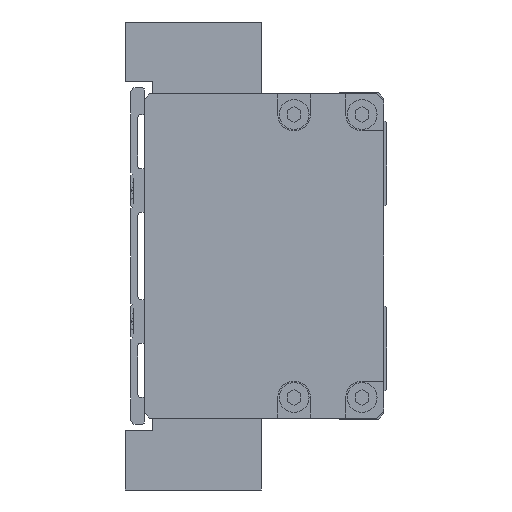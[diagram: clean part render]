
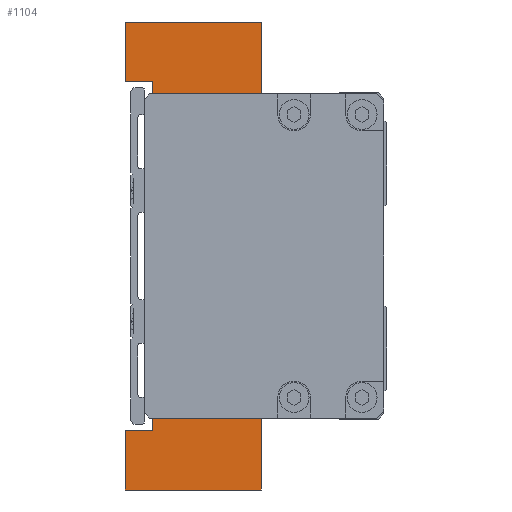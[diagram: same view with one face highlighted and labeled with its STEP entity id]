
A CAD part, left-side view. The second image highlights one B-rep face of the part: STEP entity #1104.
In plain terms, the highlighted planar face has unit normal (-1, 0, 0).
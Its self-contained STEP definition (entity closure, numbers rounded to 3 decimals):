
#369 = DIRECTION ( 'NONE',  ( 0., 1., 0. ) ) ;
#450 = LINE ( 'NONE', #4856, #14158 ) ;
#506 = CARTESIAN_POINT ( 'NONE',  ( -77., 25., 32. ) ) ;
#576 = FACE_OUTER_BOUND ( 'NONE', #13314, .T. ) ;
#730 = LINE ( 'NONE', #8029, #16674 ) ;
#1045 = EDGE_CURVE ( 'NONE', #18349, #2283, #13980, .T. ) ;
#1104 = ADVANCED_FACE ( 'NONE', ( #576 ), #7253, .F. ) ;
#1329 = VECTOR ( 'NONE', #4934, 1000. ) ;
#1408 = EDGE_CURVE ( 'NONE', #21489, #16535, #5716, .T. ) ;
#1482 = CARTESIAN_POINT ( 'NONE',  ( -77., 10., 21. ) ) ;
#2006 = VECTOR ( 'NONE', #18661, 1000. ) ;
#2052 = DIRECTION ( 'NONE',  ( 0., 0., 1. ) ) ;
#2283 = VERTEX_POINT ( 'NONE', #16072 ) ;
#2664 = VERTEX_POINT ( 'NONE', #22894 ) ;
#2738 = EDGE_CURVE ( 'NONE', #17824, #18231, #24630, .T. ) ;
#2873 = LINE ( 'NONE', #13018, #11513 ) ;
#3145 = ORIENTED_EDGE ( 'NONE', *, *, #1408, .F. ) ;
#3332 = DIRECTION ( 'NONE',  ( 0., -1., 0. ) ) ;
#3763 = VERTEX_POINT ( 'NONE', #18085 ) ;
#3834 = ORIENTED_EDGE ( 'NONE', *, *, #1045, .F. ) ;
#3844 = VECTOR ( 'NONE', #7135, 1000. ) ;
#4324 = EDGE_CURVE ( 'NONE', #9682, #3763, #21065, .T. ) ;
#4696 = ORIENTED_EDGE ( 'NONE', *, *, #6400, .F. ) ;
#4768 = CARTESIAN_POINT ( 'NONE',  ( -77., 0., 43. ) ) ;
#4856 = CARTESIAN_POINT ( 'NONE',  ( -77., 5., -28. ) ) ;
#4934 = DIRECTION ( 'NONE',  ( 0., -1., 0. ) ) ;
#5095 = DIRECTION ( 'NONE',  ( 0., 1., 0. ) ) ;
#5255 = LINE ( 'NONE', #21780, #26188 ) ;
#5291 = CARTESIAN_POINT ( 'NONE',  ( -77., 10., 0. ) ) ;
#5449 = VERTEX_POINT ( 'NONE', #20926 ) ;
#5521 = ORIENTED_EDGE ( 'NONE', *, *, #11303, .F. ) ;
#5711 = EDGE_CURVE ( 'NONE', #20790, #10244, #2873, .T. ) ;
#5716 = LINE ( 'NONE', #11078, #23119 ) ;
#5910 = CARTESIAN_POINT ( 'NONE',  ( -77., 25., -32. ) ) ;
#6197 = EDGE_CURVE ( 'NONE', #21466, #18349, #6779, .T. ) ;
#6208 = CARTESIAN_POINT ( 'NONE',  ( -77., 20., -32. ) ) ;
#6400 = EDGE_CURVE ( 'NONE', #5449, #22737, #22884, .T. ) ;
#6454 = CARTESIAN_POINT ( 'NONE',  ( -77., 5., -21. ) ) ;
#6592 = CARTESIAN_POINT ( 'NONE',  ( -77., 9., 21. ) ) ;
#6779 = LINE ( 'NONE', #17196, #1329 ) ;
#7135 = DIRECTION ( 'NONE',  ( 0., 0., -1. ) ) ;
#7253 = PLANE ( 'NONE',  #12082 ) ;
#7257 = ORIENTED_EDGE ( 'NONE', *, *, #9926, .F. ) ;
#7786 = LINE ( 'NONE', #8130, #19521 ) ;
#8029 = CARTESIAN_POINT ( 'NONE',  ( -77., 20., 32. ) ) ;
#8130 = CARTESIAN_POINT ( 'NONE',  ( -77., 25., -43. ) ) ;
#8797 = ORIENTED_EDGE ( 'NONE', *, *, #11699, .F. ) ;
#9052 = DIRECTION ( 'NONE',  ( 0., 0., -1. ) ) ;
#9184 = ORIENTED_EDGE ( 'NONE', *, *, #4324, .T. ) ;
#9318 = ORIENTED_EDGE ( 'NONE', *, *, #5711, .F. ) ;
#9682 = VERTEX_POINT ( 'NONE', #20996 ) ;
#9701 = EDGE_CURVE ( 'NONE', #24142, #5449, #450, .T. ) ;
#9926 = EDGE_CURVE ( 'NONE', #2664, #22929, #5255, .T. ) ;
#9969 = ORIENTED_EDGE ( 'NONE', *, *, #16178, .F. ) ;
#10244 = VERTEX_POINT ( 'NONE', #6454 ) ;
#10510 = ORIENTED_EDGE ( 'NONE', *, *, #23959, .F. ) ;
#10513 = ORIENTED_EDGE ( 'NONE', *, *, #14205, .F. ) ;
#10974 = DIRECTION ( 'NONE',  ( 0., 0., 1. ) ) ;
#11078 = CARTESIAN_POINT ( 'NONE',  ( -77., 10., 21. ) ) ;
#11303 = EDGE_CURVE ( 'NONE', #22737, #12524, #16916, .T. ) ;
#11433 = CARTESIAN_POINT ( 'NONE',  ( -77., 0., -28. ) ) ;
#11513 = VECTOR ( 'NONE', #23016, 1000. ) ;
#11522 = CARTESIAN_POINT ( 'NONE',  ( -77., 9., -21. ) ) ;
#11699 = EDGE_CURVE ( 'NONE', #11941, #2664, #21629, .T. ) ;
#11745 = EDGE_CURVE ( 'NONE', #20790, #16535, #19745, .T. ) ;
#11941 = VERTEX_POINT ( 'NONE', #506 ) ;
#12082 = AXIS2_PLACEMENT_3D ( 'NONE', #5291, #15592, #24424 ) ;
#12095 = CARTESIAN_POINT ( 'NONE',  ( -77., 25., -43. ) ) ;
#12524 = VERTEX_POINT ( 'NONE', #12095 ) ;
#12626 = ORIENTED_EDGE ( 'NONE', *, *, #18850, .F. ) ;
#12663 = DIRECTION ( 'NONE',  ( 0., -1., 0. ) ) ;
#12769 = ORIENTED_EDGE ( 'NONE', *, *, #2738, .F. ) ;
#13018 = CARTESIAN_POINT ( 'NONE',  ( -77., 9., -21. ) ) ;
#13314 = EDGE_LOOP ( 'NONE', ( #16554, #9184, #9969, #12769, #10513, #7257, #8797, #10510, #3834, #17401, #12626, #5521, #4696, #26121, #16877, #9318, #14612, #3145 ) ) ;
#13355 = DIRECTION ( 'NONE',  ( 0., 0., 1. ) ) ;
#13416 = DIRECTION ( 'NONE',  ( 0., -1., 0. ) ) ;
#13631 = DIRECTION ( 'NONE',  ( 0., 0., -1. ) ) ;
#13980 = LINE ( 'NONE', #23251, #25397 ) ;
#14158 = VECTOR ( 'NONE', #12663, 1000. ) ;
#14205 = EDGE_CURVE ( 'NONE', #22929, #17824, #18175, .T. ) ;
#14551 = CARTESIAN_POINT ( 'NONE',  ( -77., 5., -28. ) ) ;
#14612 = ORIENTED_EDGE ( 'NONE', *, *, #11745, .T. ) ;
#14965 = VECTOR ( 'NONE', #13416, 1000. ) ;
#15592 = DIRECTION ( 'NONE',  ( 1., 0., 0. ) ) ;
#15680 = DIRECTION ( 'NONE',  ( 0., 0., -1. ) ) ;
#15779 = VECTOR ( 'NONE', #5095, 1000. ) ;
#16072 = CARTESIAN_POINT ( 'NONE',  ( -77., 20., 32. ) ) ;
#16178 = EDGE_CURVE ( 'NONE', #18231, #3763, #24353, .T. ) ;
#16275 = DIRECTION ( 'NONE',  ( 0., 1., 0. ) ) ;
#16281 = VECTOR ( 'NONE', #369, 1000. ) ;
#16451 = VECTOR ( 'NONE', #15680, 1000. ) ;
#16535 = VERTEX_POINT ( 'NONE', #20877 ) ;
#16554 = ORIENTED_EDGE ( 'NONE', *, *, #25270, .T. ) ;
#16674 = VECTOR ( 'NONE', #16275, 1000. ) ;
#16877 = ORIENTED_EDGE ( 'NONE', *, *, #18533, .F. ) ;
#16891 = VECTOR ( 'NONE', #23970, 1000. ) ;
#16916 = LINE ( 'NONE', #24523, #16281 ) ;
#17113 = CARTESIAN_POINT ( 'NONE',  ( -77., 5., -21. ) ) ;
#17196 = CARTESIAN_POINT ( 'NONE',  ( -77., 25., -32. ) ) ;
#17288 = DIRECTION ( 'NONE',  ( 0., 0., -1. ) ) ;
#17401 = ORIENTED_EDGE ( 'NONE', *, *, #6197, .F. ) ;
#17497 = CARTESIAN_POINT ( 'NONE',  ( -77., 9., -21. ) ) ;
#17546 = VECTOR ( 'NONE', #13631, 1000. ) ;
#17743 = CARTESIAN_POINT ( 'NONE',  ( -77., 5., 28. ) ) ;
#17824 = VERTEX_POINT ( 'NONE', #22867 ) ;
#18085 = CARTESIAN_POINT ( 'NONE',  ( -77., 5., 21. ) ) ;
#18175 = LINE ( 'NONE', #21647, #3844 ) ;
#18231 = VERTEX_POINT ( 'NONE', #20134 ) ;
#18349 = VERTEX_POINT ( 'NONE', #6208 ) ;
#18533 = EDGE_CURVE ( 'NONE', #10244, #24142, #21419, .T. ) ;
#18661 = DIRECTION ( 'NONE',  ( 0., -1., 0. ) ) ;
#18850 = EDGE_CURVE ( 'NONE', #12524, #21466, #7786, .T. ) ;
#19521 = VECTOR ( 'NONE', #2052, 1000. ) ;
#19745 = LINE ( 'NONE', #11522, #16891 ) ;
#20134 = CARTESIAN_POINT ( 'NONE',  ( -77., 5., 28. ) ) ;
#20790 = VERTEX_POINT ( 'NONE', #17497 ) ;
#20877 = CARTESIAN_POINT ( 'NONE',  ( -77., 10., -21. ) ) ;
#20926 = CARTESIAN_POINT ( 'NONE',  ( -77., 0., -28. ) ) ;
#20996 = CARTESIAN_POINT ( 'NONE',  ( -77., 9., 21. ) ) ;
#21065 = LINE ( 'NONE', #6592, #2006 ) ;
#21419 = LINE ( 'NONE', #17113, #23626 ) ;
#21466 = VERTEX_POINT ( 'NONE', #5910 ) ;
#21489 = VERTEX_POINT ( 'NONE', #22291 ) ;
#21629 = LINE ( 'NONE', #25593, #22881 ) ;
#21647 = CARTESIAN_POINT ( 'NONE',  ( -77., 0., 43. ) ) ;
#21780 = CARTESIAN_POINT ( 'NONE',  ( -77., 25., 43. ) ) ;
#22291 = CARTESIAN_POINT ( 'NONE',  ( -77., 10., 21. ) ) ;
#22737 = VERTEX_POINT ( 'NONE', #24190 ) ;
#22867 = CARTESIAN_POINT ( 'NONE',  ( -77., 0., 28. ) ) ;
#22881 = VECTOR ( 'NONE', #13355, 1000. ) ;
#22884 = LINE ( 'NONE', #11433, #17546 ) ;
#22894 = CARTESIAN_POINT ( 'NONE',  ( -77., 25., 43. ) ) ;
#22929 = VERTEX_POINT ( 'NONE', #4768 ) ;
#23016 = DIRECTION ( 'NONE',  ( 0., -1., 0. ) ) ;
#23119 = VECTOR ( 'NONE', #9052, 1000. ) ;
#23251 = CARTESIAN_POINT ( 'NONE',  ( -77., 20., -32. ) ) ;
#23418 = CARTESIAN_POINT ( 'NONE',  ( -77., 0., 28. ) ) ;
#23626 = VECTOR ( 'NONE', #17288, 1000. ) ;
#23959 = EDGE_CURVE ( 'NONE', #2283, #11941, #730, .T. ) ;
#23970 = DIRECTION ( 'NONE',  ( 0., 1., 0. ) ) ;
#24142 = VERTEX_POINT ( 'NONE', #14551 ) ;
#24171 = LINE ( 'NONE', #1482, #14965 ) ;
#24190 = CARTESIAN_POINT ( 'NONE',  ( -77., 0., -43. ) ) ;
#24353 = LINE ( 'NONE', #17743, #16451 ) ;
#24424 = DIRECTION ( 'NONE',  ( 0., 0., -1. ) ) ;
#24523 = CARTESIAN_POINT ( 'NONE',  ( -77., 0., -43. ) ) ;
#24630 = LINE ( 'NONE', #23418, #15779 ) ;
#25270 = EDGE_CURVE ( 'NONE', #21489, #9682, #24171, .T. ) ;
#25397 = VECTOR ( 'NONE', #10974, 1000. ) ;
#25593 = CARTESIAN_POINT ( 'NONE',  ( -77., 25., 32. ) ) ;
#26121 = ORIENTED_EDGE ( 'NONE', *, *, #9701, .F. ) ;
#26188 = VECTOR ( 'NONE', #3332, 1000. ) ;
